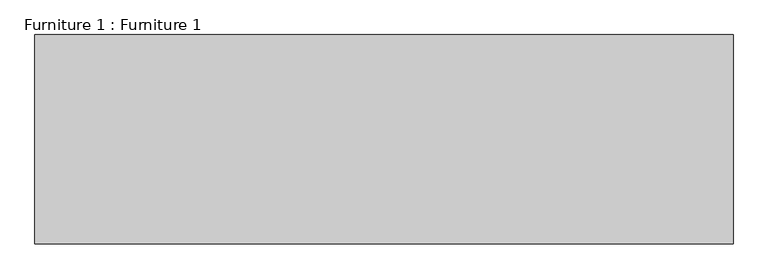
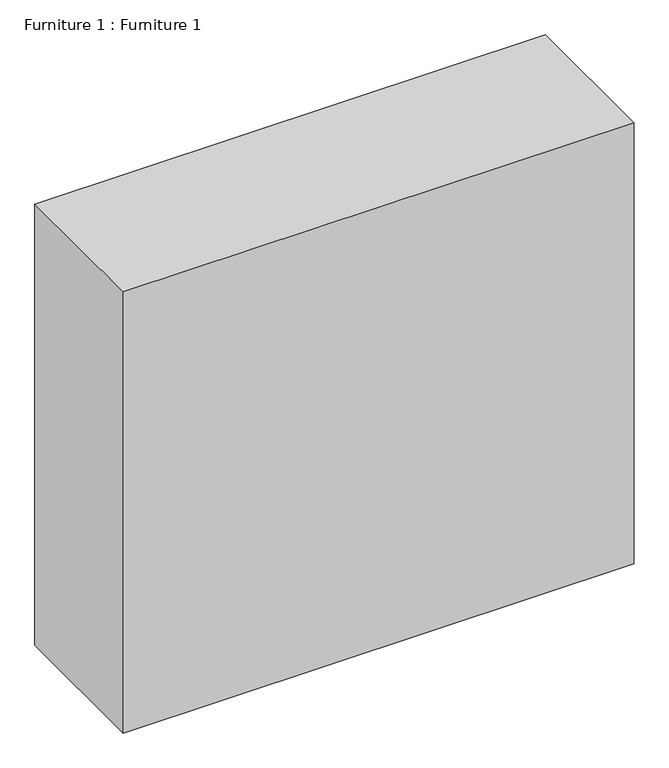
"""IFC4 building model written with IfcOpenShell, lengths in millimetres: furniture geometry, Furniture 1 : Furniture 1."""

import ifcopenshell
import ifcopenshell.guid

model = None  # the IFC model being written
_history = None  # IfcOwnerHistory: only IFC2X3 demands one
_inside = {}  # id of a spatial element -> (the spatial element, [elements in it])
_under = {}  # id of a project, library or spatial element -> (it, [spatial elements below it])
_declared = {}  # id of a project -> (the project, [libraries it declares])
_typed = {}  # id of a type object -> (the type object, [elements of that type])
_made_of = {}  # id of a material, layer set ... -> (it, [elements and type objects made of it])


def new_model(schema):
    """Start an empty IFC model of exactly this schema.

    Asked for "IFC4X3", IfcOpenShell would pick the latest addendum, in which some entities
    have other attributes; the version numbers below select the first issue.
    IFC2X3 requires an IfcOwnerHistory on every rooted entity: one is made here for all.
    """
    global model, _history
    if schema == "IFC4X3":
        model = ifcopenshell.file(schema_version=(4, 3, 0, 0))
    else:
        model = ifcopenshell.file(schema=schema)
    _inside.clear()
    _under.clear()
    _declared.clear()
    _typed.clear()
    _made_of.clear()
    _history = None
    if model.schema == "IFC2X3":
        org = make("IfcOrganization", Name="unknown")
        user = make(
            "IfcPersonAndOrganization",
            ThePerson=make("IfcPerson", FamilyName="unknown"),
            TheOrganization=org,
        )
        app = make(
            "IfcApplication",
            ApplicationDeveloper=org,
            Version="unknown",
            ApplicationFullName="unknown",
            ApplicationIdentifier="unknown",
        )
        _history = make(
            "IfcOwnerHistory",
            OwningUser=user,
            OwningApplication=app,
            ChangeAction="ADDED",
            CreationDate=0,
        )
    return model


def make(cls, **values):
    """One entity of the class cls with the attributes given. An attribute that is None is left unset."""
    return model.create_entity(
        cls, **{name: value for name, value in values.items() if value is not None}
    )


def rooted(cls, **values):
    """An entity with a GlobalId (a new one), such as an element, a storey or a relation."""
    return make(cls, GlobalId=ifcopenshell.guid.new(), OwnerHistory=_history, **values)


def si_unit(unit_type, name, prefix=None):
    """IfcSIUnit, for example si_unit("LENGTHUNIT", "METRE", prefix="MILLI")."""
    return make("IfcSIUnit", UnitType=unit_type, Prefix=prefix, Name=name)


def assignment(units):
    """IfcUnitAssignment: the units of a project."""
    return None if units is None else make("IfcUnitAssignment", Units=units)


def point(xyz):
    """IfcCartesianPoint."""
    return None if xyz is None else make("IfcCartesianPoint", Coordinates=xyz)


def direction(xyz):
    """IfcDirection."""
    return None if xyz is None else make("IfcDirection", DirectionRatios=xyz)


def frame(location, z_axis=None, x_axis=None):
    """IfcAxis2Placement3D, a coordinate frame: its origin and axes. An axis left out is left unset."""
    return make(
        "IfcAxis2Placement3D",
        Location=point(location),
        Axis=direction(z_axis),
        RefDirection=direction(x_axis),
    )


def origin():
    """The frame at (0, 0, 0) with its axes left unset."""
    return frame((0.0, 0.0, 0.0))


def origin_with_axes():
    """The frame at (0, 0, 0) with the z axis (0, 0, 1) and the x axis (1, 0, 0) written out."""
    return frame((0.0, 0.0, 0.0), z_axis=(0.0, 0.0, 1.0), x_axis=(1.0, 0.0, 0.0))


def place(relative_to, where):
    """IfcLocalPlacement: puts the frame where relative to a parent placement (None: the world)."""
    return make(
        "IfcLocalPlacement", PlacementRelTo=relative_to, RelativePlacement=where
    )


def context(
    kind, dimensions, precision=None, world=None, true_north=None, identifier=None
):
    """IfcGeometricRepresentationContext, for example the 3D "Model" context."""
    return make(
        "IfcGeometricRepresentationContext",
        ContextIdentifier=identifier,
        ContextType=kind,
        CoordinateSpaceDimension=dimensions,
        Precision=precision,
        WorldCoordinateSystem=world,
        TrueNorth=true_north,
    )


def project(units=None, contexts=None):
    """IfcProject with its units and contexts."""
    return rooted(
        "IfcProject",
        Name="project",
        RepresentationContexts=contexts,
        UnitsInContext=assignment(units),
    )


def spatial(cls, under=None, at=None, **own):
    """A site, building, storey or space (cls), placed at a placement, below another one or the project."""
    s = rooted(cls, ObjectPlacement=at, **own)
    if under is not None:
        _under.setdefault(under.id(), (under, []))[1].append(s)
    return s


def polyline(points):
    """IfcPolyline through the points."""
    return make("IfcPolyline", Points=[point(p) for p in points])


def outline(outer, holes=None, kind="AREA"):
    """IfcArbitraryClosedProfileDef: a profile drawn as a closed curve; with holes, ...WithVoids."""
    if holes is None:
        return make("IfcArbitraryClosedProfileDef", ProfileType=kind, OuterCurve=outer)
    return make(
        "IfcArbitraryProfileDefWithVoids",
        ProfileType=kind,
        OuterCurve=outer,
        InnerCurves=holes,
    )


def extrude(swept, where, along, depth):
    """IfcExtrudedAreaSolid: the profile swept, set in the frame where, extruded along a direction by depth."""
    return make(
        "IfcExtrudedAreaSolid",
        SweptArea=swept,
        Position=where,
        ExtrudedDirection=direction(along),
        Depth=depth,
    )


def shape(context_of_items, identifier, shape_type, items):
    """IfcShapeRepresentation: the items that make up one representation, for example the "Body"."""
    return make(
        "IfcShapeRepresentation",
        ContextOfItems=context_of_items,
        RepresentationIdentifier=identifier,
        RepresentationType=shape_type,
        Items=items,
    )


def source(mapping_origin, context_of_items, identifier, shape_type, items):
    """IfcRepresentationMap: a shape defined once, which mapped items show again and again."""
    return make(
        "IfcRepresentationMap",
        MappingOrigin=mapping_origin,
        MappedRepresentation=shape(context_of_items, identifier, shape_type, items),
    )


def transform(
    local_origin,
    x_axis=None,
    y_axis=None,
    z_axis=None,
    scale=None,
    scale2=None,
    scale3=None,
    uniform=True,
):
    """IfcCartesianTransformationOperator3D, or its non-uniform kind. x_axis, y_axis, z_axis: its Axis1, 2, 3."""
    if uniform:
        return make(
            "IfcCartesianTransformationOperator3D",
            Axis1=direction(x_axis),
            Axis2=direction(y_axis),
            LocalOrigin=point(local_origin),
            Scale=scale,
            Axis3=direction(z_axis),
        )
    return make(
        "IfcCartesianTransformationOperator3DnonUniform",
        Axis1=direction(x_axis),
        Axis2=direction(y_axis),
        LocalOrigin=point(local_origin),
        Scale=scale,
        Axis3=direction(z_axis),
        Scale2=scale2,
        Scale3=scale3,
    )


def mapped(mapping_source, mapping_target):
    """IfcMappedItem: shows the shape of a source again, moved by a transform."""
    return make(
        "IfcMappedItem", MappingSource=mapping_source, MappingTarget=mapping_target
    )


def made_of(thing, what):
    """Note that an element or type object is made of a material, layer set ...; save() writes the relation."""
    if what is not None:
        _made_of.setdefault(what.id(), (what, []))[1].append(thing)
    return thing


def element(
    cls,
    number,
    at=None,
    inside=None,
    cuts=None,
    type_object=None,
    material=None,
    context=None,
    identifier="Body",
    shape_type=None,
    held_by="IfcProductDefinitionShape",
    body=None,
    shapes=None,
    **own,
):
    """One element of the class cls, such as IfcWall. Its Tag is "e" and its number.

    at: its placement. inside: the storey or other place that contains it. cuts: it is an
    opening in that element (IfcRelVoidsElement). A single representation is given by context,
    identifier, shape_type and body (its items); several are given by shapes. held_by: the class
    of the entity that holds the representations. save() writes the other relations.
    """
    e = rooted(cls, Tag="e%d" % number, ObjectPlacement=at, **own)
    if body is not None:
        shapes = [shape(context, identifier, shape_type, body)]
    if shapes is not None:
        e.Representation = make(held_by, Representations=shapes)
    if inside is not None:
        _inside.setdefault(inside.id(), (inside, []))[1].append(e)
    if cuts is not None:
        rooted(
            "IfcRelVoidsElement", RelatingBuildingElement=cuts, RelatedOpeningElement=e
        )
    if type_object is not None:
        _typed.setdefault(type_object.id(), (type_object, []))[1].append(e)
    return made_of(e, material)


def aggregate(whole, parts):
    """IfcRelAggregates: a whole, such as a stair, and the parts it consists of."""
    return rooted("IfcRelAggregates", RelatingObject=whole, RelatedObjects=parts)


def save(model, path):
    """Write the relations noted so far, then the file.

    IfcRelAggregates (storeys below a building ...), IfcRelContainedInSpatialStructure (elements
    in a storey), IfcRelDefinesByType, IfcRelAssociatesMaterial and IfcRelDeclares: one each for
    every whole, place, type object, material and project.
    """
    for whole, parts in _under.values():
        aggregate(whole, parts)
    for where, things in _inside.values():
        rooted(
            "IfcRelContainedInSpatialStructure",
            RelatedElements=things,
            RelatingStructure=where,
        )
    for kind, things in _typed.values():
        rooted("IfcRelDefinesByType", RelatedObjects=things, RelatingType=kind)
    for what, things in _made_of.values():
        rooted("IfcRelAssociatesMaterial", RelatedObjects=things, RelatingMaterial=what)
    for by, libraries in _declared.values():
        rooted("IfcRelDeclares", RelatingContext=by, RelatedDefinitions=libraries)
    model.write(path)


def furniture_1_furniture_1_4fa513ff(model_context):
    return source(origin(), model_context, "Body", "SweptSolid", [
        extrude(outline(polyline([(7327.3677817, -1919.7736366), (8327.3677817, -1919.7736366), (8327.3677817, -2219.7736366), (7327.3677817, -2219.7736366), (7327.3677817, -1919.7736366)])), origin_with_axes(), (0.0, 0.0, 1.0), 913.2497015),
    ])


if __name__ == "__main__":
    model = new_model("IFC4")
    model_context = context("Model", 3, world=origin())
    ifc_project = project(units=[si_unit("LENGTHUNIT", "METRE", prefix="MILLI")], contexts=[model_context])
    site = spatial("IfcSite", under=ifc_project)
    building = spatial("IfcBuilding", under=site)
    placement = place(None, origin())
    furniture_1_furniture_1_shape = furniture_1_furniture_1_4fa513ff(model_context)
    element("IfcFurniture", 1, ObjectType="Furniture 1 : Furniture 1", at=placement, inside=building, context=model_context, shape_type="MappedRepresentation", body=[
        mapped(furniture_1_furniture_1_shape, transform((0.0, 0.0, 0.0), x_axis=(1.0, 0.0, 0.0), y_axis=(0.0, 1.0, 0.0), z_axis=(0.0, 0.0, 1.0))),
    ])
    save(model, "model.ifc")
